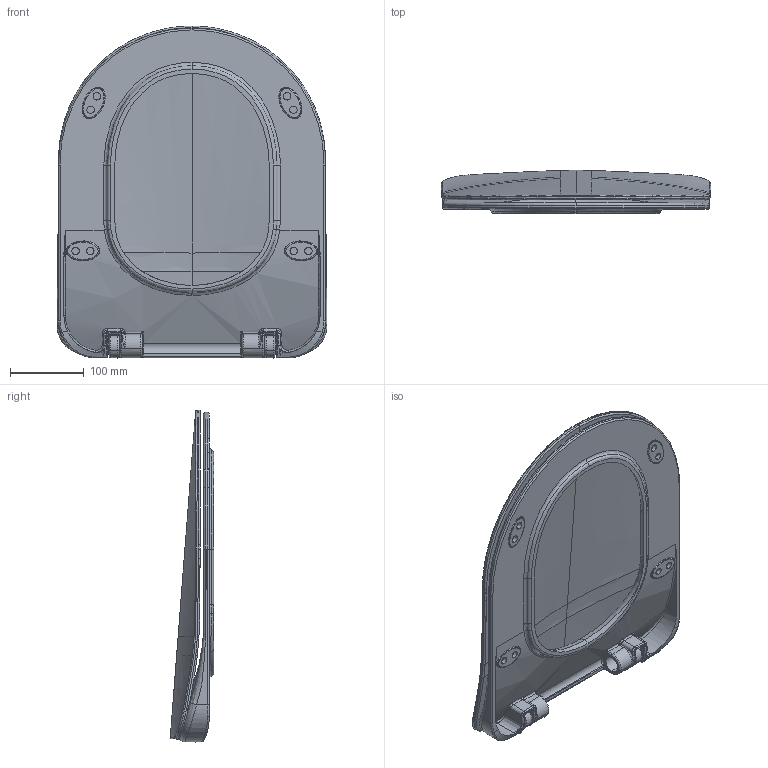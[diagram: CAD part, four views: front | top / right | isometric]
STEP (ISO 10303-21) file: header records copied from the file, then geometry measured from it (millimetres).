
FILE_DESCRIPTION (( 'STEP AP203' ), '1' );
FILE_NAME ('Duck Kapak2.STEP', '2018-10-16T07:32:46', ( '' ), ( '' ), 'SwSTEP 2.0', 'SolidWorks 2018', '' );
FILE_SCHEMA (( 'CONFIG_CONTROL_DESIGN' ));
Products named in the file (1): Duck Kapak2
Bounding box: 365.26 x 58.74 x 449.51 mm (x, y, z)
Volume: 1755818.6 mm3; surface area: 547798 mm2
Topology: 2 solids, 2 shells, 431 faces, 1061 edges, 639 vertices
Faces by surface type: bspline 226, cylinder 101, plane 55, torus 36, sphere 13
Entity records: 53216 total; most frequent: CARTESIAN_POINT 44716, ORIENTED_EDGE 2102, DIRECTION 1274, EDGE_CURVE 1051, VERTEX_POINT 637, AXIS2_PLACEMENT_3D 546, B_SPLINE_CURVE_WITH_KNOTS 519, EDGE_LOOP 450
